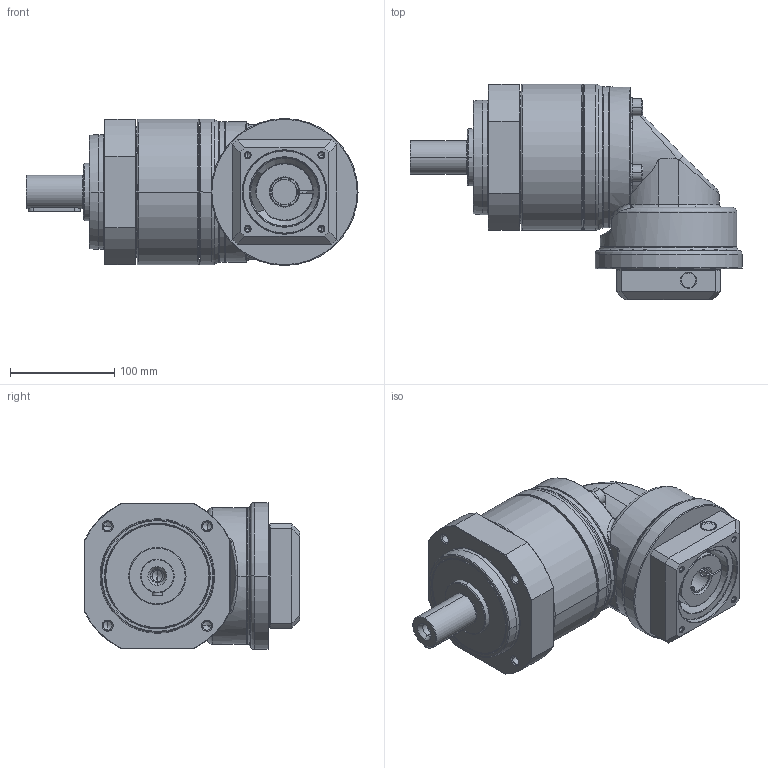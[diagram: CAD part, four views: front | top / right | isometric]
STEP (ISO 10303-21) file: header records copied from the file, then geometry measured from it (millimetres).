
FILE_DESCRIPTION((''),'2;1');
FILE_NAME('PS2R-E_1ST_24-P0411500101_ASM','2016-05-30T',('d01943'),(''),'PRO/ENGINEER BY PARAMETRIC TECHNOLOGY CORPORATION, 2008410','PRO/ENGINEER BY PARAMETRIC TECHNOLOGY CORPORATION, 2008410','');
FILE_SCHEMA(('CONFIG_CONTROL_DESIGN'));
Length unit declared in the file: millimetre
Products named in the file (12): P1328510001; P0250500001; P0350501401; P1349500001; P1017500001; P0713501001; P0503500008; P1350500101; P0411500101; P1702500001; 2111BA10040; PS2R-E_1ST_24-P0411500101_ASM
Assembly tree (14 placements, depth 2):
  PS2R-E_1ST_24-P0411500101_ASM
    P1328510001
    P0250500001
    P0350501401
    P1349500001
    P1017500001
    P0713501001
    P0503500008
    P1350500101
    P0411500101
    P1702500001
    2111BA10040  x4
Bounding box: 318.5 x 206.5 x 141 mm (x, y, z)
Volume: 2446260.3 mm3; surface area: 424625.1 mm2
Topology: 14 solids, 14 shells, 714 faces, 1576 edges, 909 vertices
Faces by surface type: cylinder 210, cone 208, plane 166, torus 96, bspline 34
Entity records: 22792 total; most frequent: CARTESIAN_POINT 9074, DIRECTION 3016, ORIENTED_EDGE 2664, EDGE_CURVE 1332, AXIS2_PLACEMENT_3D 1267, VERTEX_POINT 789, EDGE_LOOP 691, CIRCLE 660
